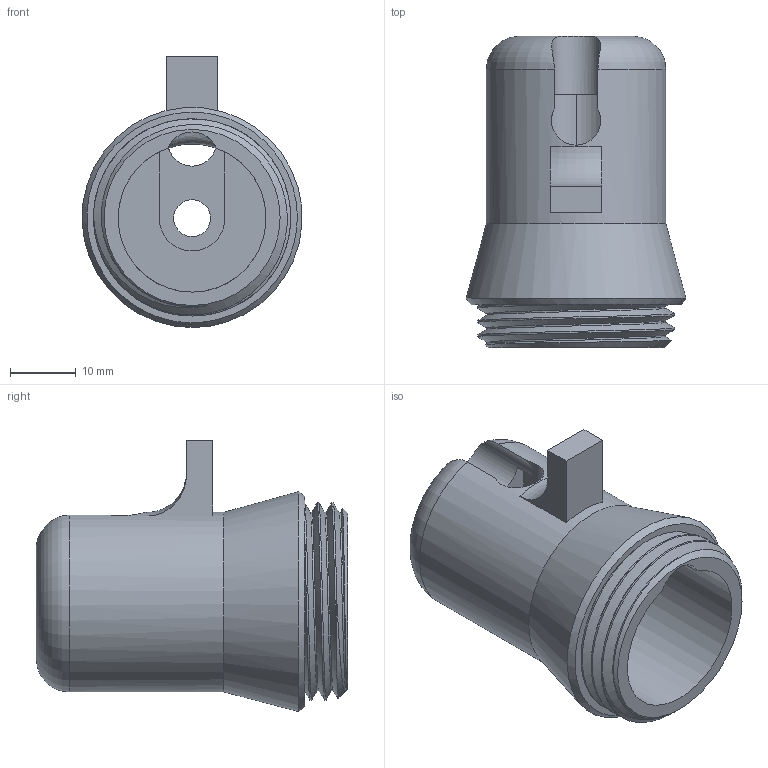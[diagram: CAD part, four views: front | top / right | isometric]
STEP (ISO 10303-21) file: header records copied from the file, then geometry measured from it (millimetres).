
FILE_DESCRIPTION(('HOOPS Exchange Step'),'2;1');
FILE_NAME('/private/var/mobile/Containers/Data/Application/7757FF33-1D33-4737-A453-9CE358D91B4E/tmp/export/temp_export','2026-04-22T20:44:55+19:00',('mobile'),('Shapr3D Limited'),'HOOPS Exchange 2025.9','Shapr3D','Authorized');
FILE_SCHEMA( ('AP242_MANAGED_MODEL_BASED_3D_ENGINEERING_MIM_LF {1 0 10303 442 1 1 4}') );
Length unit declared in the file: millimetre
Products named in the file (3): Back; Flashlight body.step; root
Assembly tree (2 placements, depth 3):
  root
    Flashlight body.step
      Back
Bounding box: 33.43 x 47.3 x 41.23 mm (x, y, z)
Volume: 17408.2 mm3; surface area: 8520.3 mm2
Topology: 1 solids, 1 shells, 33 faces, 93 edges, 62 vertices
Faces by surface type: plane 12, cylinder 12, bspline 5, torus 3, cone 1
Full cylindrical faces by diameter (mm): 5.6 x1, 22.5 x1, 27.3 x1, 29.972 x1
Entity records: 8765 total; most frequent: CARTESIAN_POINT 7874, ORIENTED_EDGE 186, DIRECTION 157, EDGE_CURVE 93, AXIS2_PLACEMENT_3D 62, VERTEX_POINT 62, EDGE_LOOP 37, FACE_BOUND 37
